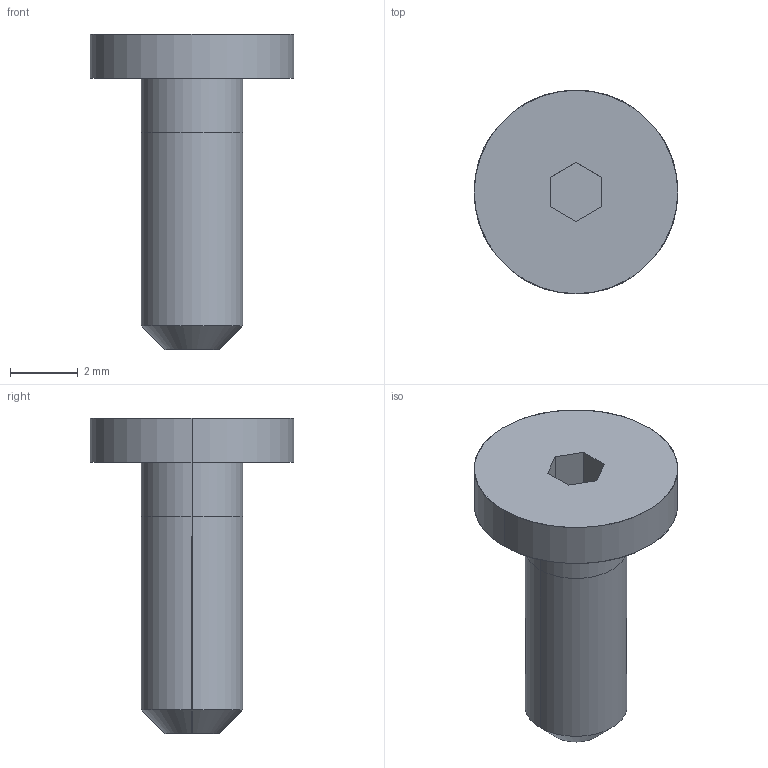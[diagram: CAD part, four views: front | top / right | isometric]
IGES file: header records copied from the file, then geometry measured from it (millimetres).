
Global section: file name: E:\UnigraphicsGraphicData\MISUMI_PRESS-PARTS\IGES\3d_cbss3-8_03492_r00.igs; native system: NX V5.0; preprocessor: UGS NX IGES V5.0; author: MISUMI; date: 20110105.160201; units: millimetre
Bounding box: 6 x 6 x 9.3 mm (x, y, z)
Surface area: 162.5 mm2 (no closed solid volume)
Topology: 0 solids, 0 shells, 18 faces, 100 edges, 100 vertices
Faces by surface type: bspline 18
